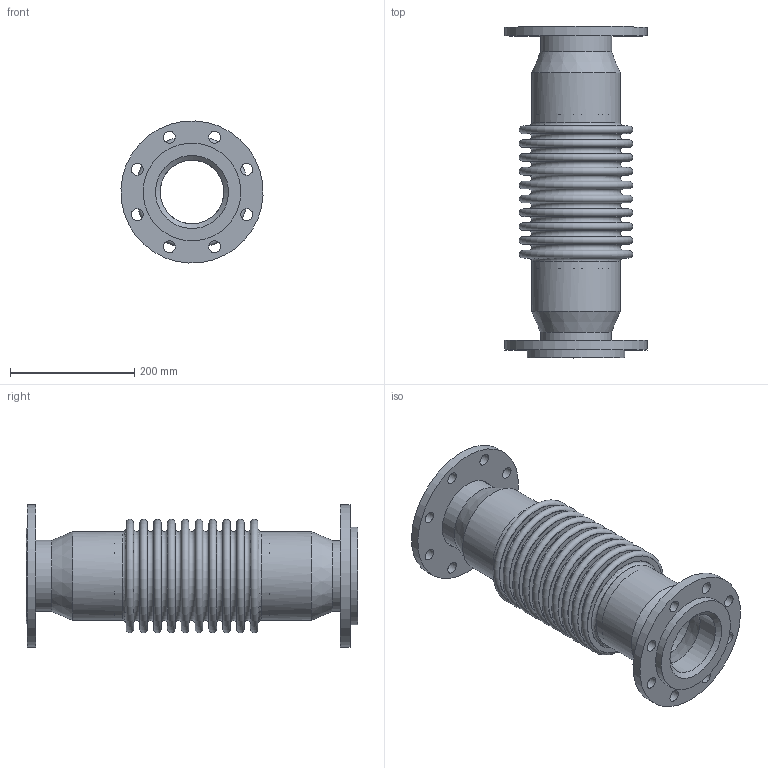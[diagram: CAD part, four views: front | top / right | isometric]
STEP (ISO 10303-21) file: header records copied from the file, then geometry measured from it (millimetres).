
FILE_DESCRIPTION(/* description */ (''),/* implementation_level */ '2;1');
FILE_NAME(/* name */ 'C:\001_Work\Designs\EFL250-ASA150LB\EFL250-4x21(ASA150LB).stp',/* time_stamp */ '2016-05-10T23:53:46-04:00',/* author */ ('rramoutar'),/* organization */ ('Mason Industries Inc.'),/* preprocessor_version */ 'ST-DEVELOPER v15.6',/* originating_system */ 'Autodesk Inventor 2015',/* authorisation */ '');
FILE_SCHEMA (('CONFIG_CONTROL_DESIGN'));
Length unit declared in the file: inch
Products named in the file (1): EFL250-4x21-ASA150LB
Bounding box: 228.38 x 533.4 x 228.38 mm (x, y, z)
Volume: 1900562.7 mm3; surface area: 957471.5 mm2
Topology: 1 solids, 1 shells, 133 faces, 255 edges, 173 vertices
Faces by surface type: plane 51, torus 42, cylinder 32, cone 8
Full cylindrical faces by diameter (mm): 19.05 x16, 102.362 x2, 114.3 x2, 117.475 x3, 130.937 x2, 140.843 x2, 142.875 x2, 157.162 x1, 228.6 x2
Entity records: 3065 total; most frequent: DIRECTION 566, CARTESIAN_POINT 432, EDGE_LOOP 298, ORIENTED_EDGE 298, AXIS2_PLACEMENT_3D 283, FACE_BOUND 165, CIRCLE 149, VERTEX_POINT 149
